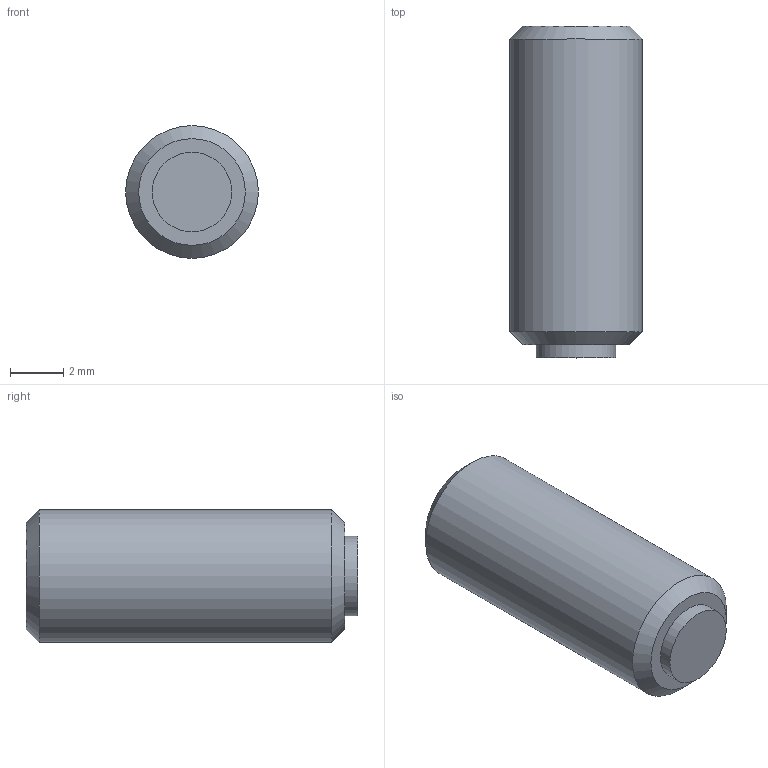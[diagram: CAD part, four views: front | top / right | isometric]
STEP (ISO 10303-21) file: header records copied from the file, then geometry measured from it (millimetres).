
FILE_DESCRIPTION( ( 'STEP AP203' ), '1' );
FILE_NAME( 'C:/Temp/Ganter_Step_05_03_2020/data/3_2/gn913_3/Grub screw GN 913.3-M5-12-MS.stp', '2020-03-13T05:35:46', ( 'License CC BY-ND 4.0' ), ( 'CADENAS' ), ' ', 'PARTsolutions', ' ' );
FILE_SCHEMA( ( 'CONFIG_CONTROL_DESIGN' ) );
Length unit declared in the file: millimetre
Products named in the file (1): _Grub screw GN 913.3-M5-12-MS
Bounding box: 5 x 12.5 x 5 mm (x, y, z)
Volume: 219.4 mm3; surface area: 248.8 mm2
Topology: 1 solids, 1 shells, 14 faces, 28 edges, 18 vertices
Faces by surface type: plane 10, cylinder 2, cone 2
Full cylindrical faces by diameter (mm): 3 x1, 5 x1
Entity records: 386 total; most frequent: DIRECTION 60, CARTESIAN_POINT 57, ORIENTED_EDGE 48, EDGE_CURVE 24, AXIS2_PLACEMENT_3D 21, EDGE_LOOP 20, VERTEX_POINT 18, LINE 18
